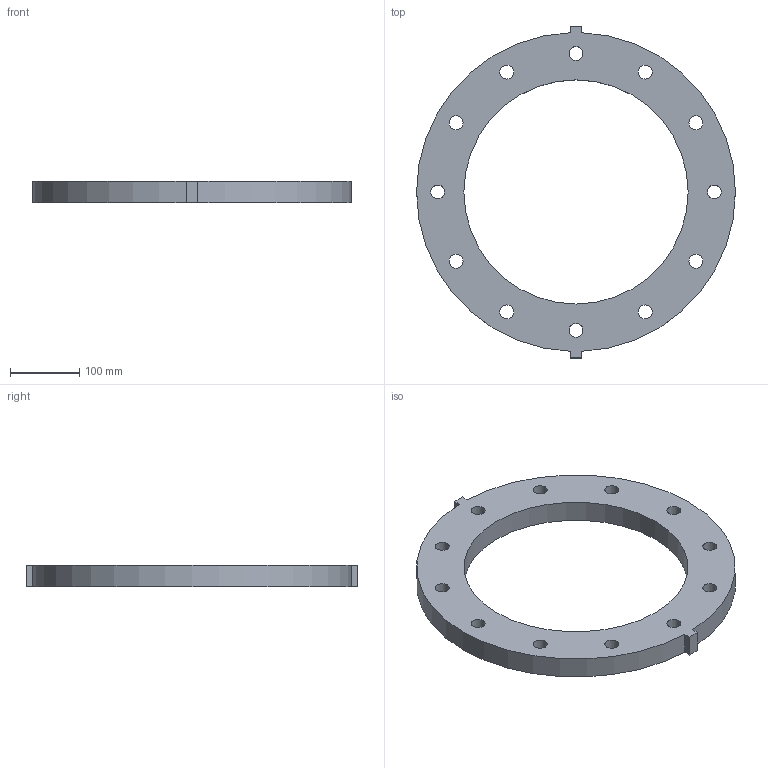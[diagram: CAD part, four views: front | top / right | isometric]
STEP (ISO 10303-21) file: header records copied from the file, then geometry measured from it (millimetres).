
FILE_DESCRIPTION(/* description */ ('VIC FLANGE ADAPTER STYLE 741 PN10 Flanges','CAx-IF Rec.Pracs.---Representation and Presentation of Product Manufacturing Information (PMI)---4.0---2014-10-13'),/* implementation_level */ '2;1');
FILE_NAME(/* name */ 'C:\Users\kkamble\AppData\Roaming\Autodesk\ApplicationPlugins\Back Up\Victaulic_IPS_Flange Adapter_PN10_Style 741 (OGSxFLG)\Victaulic_IPS_Flange Adapter_PN10_Style 741 (OGSxFLG)_12 (300).stp',/* time_stamp */ '2020-07-24T08:16:22+06:00',/* author */ ('jheald'),/* organization */ ('Victaulic'),/* preprocessor_version */ 'ST-DEVELOPER v17.2',/* originating_system */ 'Autodesk Inventor 2019',/* authorisation */ '');
FILE_SCHEMA (('AP242_MANAGED_MODEL_BASED_3D_ENGINEERING_MIM_LF { 1 0 10303 442 1 1 4 }'));
Length unit declared in the file: inch
Products named in the file (1): 741-12.0
Bounding box: 460.5 x 479.55 x 31.75 mm (x, y, z)
Volume: 2562159.6 mm3; surface area: 264877.1 mm2
Topology: 1 solids, 1 shells, 23 faces, 63 edges, 42 vertices
Faces by surface type: cylinder 15, plane 8
Full cylindrical faces by diameter (mm): 20.066 x12, 323.85 x1
Entity records: 863 total; most frequent: DIRECTION 141, CARTESIAN_POINT 129, ORIENTED_EDGE 126, EDGE_CURVE 63, AXIS2_PLACEMENT_3D 54, EDGE_LOOP 49, VERTEX_POINT 42, LINE 33
